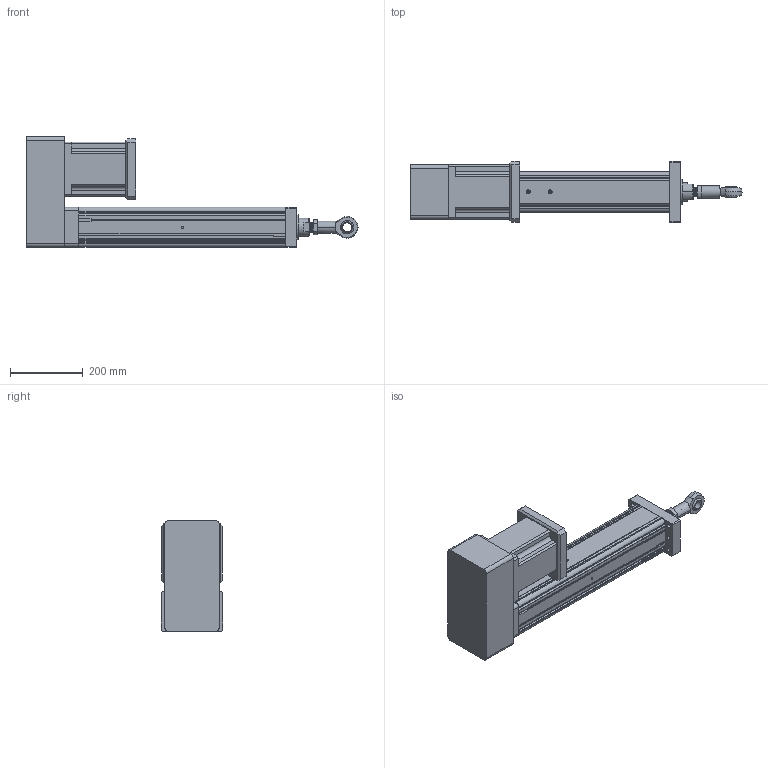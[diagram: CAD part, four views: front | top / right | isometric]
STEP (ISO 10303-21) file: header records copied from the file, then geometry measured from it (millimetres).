
FILE_DESCRIPTION (( 'STEP AP203' ), '1' );
FILE_NAME ('YRJ110-L400-H3K3.STEP', '2020-01-04T06:26:44', ( 'User' ), ( 'China' ), 'SwSTEP 2.0', 'SolidWorks 2016', '' );
FILE_SCHEMA (( 'CONFIG_CONTROL_DESIGN' ));
Length unit declared in the file: millimetre
Products named in the file (11): H3-110-1; 095-100俴最倰第; H3-110-2; 萇儂碟-110; YRJ110-L400-H3K3; 142熬厒儂; K1-110; _BNC01-SI25T_K-R-001; _BNC01-SI25T_K-R-002; BNC01-SI25T_K-R; K3-110
Assembly tree (10 placements, depth 4):
  YRJ110-L400-H3K3
    095-100俴最倰第
    萇儂碟-110
    142熬厒儂
    K3-110
      K1-110
      BNC01-SI25T_K-R
        _BNC01-SI25T_K-R-001
        _BNC01-SI25T_K-R-002
    H3-110-1
    H3-110-2
Bounding box: 915 x 170 x 305.5 mm (x, y, z)
Volume: 12419790 mm3; surface area: 1030215.4 mm2
Topology: 8 solids, 8 shells, 396 faces, 1101 edges, 709 vertices
Faces by surface type: plane 178, cylinder 170, cone 34, bspline 14
Entity records: 22819 total; most frequent: CARTESIAN_POINT 11710, ORIENTED_EDGE 2146, DIRECTION 1998, EDGE_CURVE 1073, VERTEX_POINT 709, AXIS2_PLACEMENT_3D 677, LINE 644, VECTOR 644
